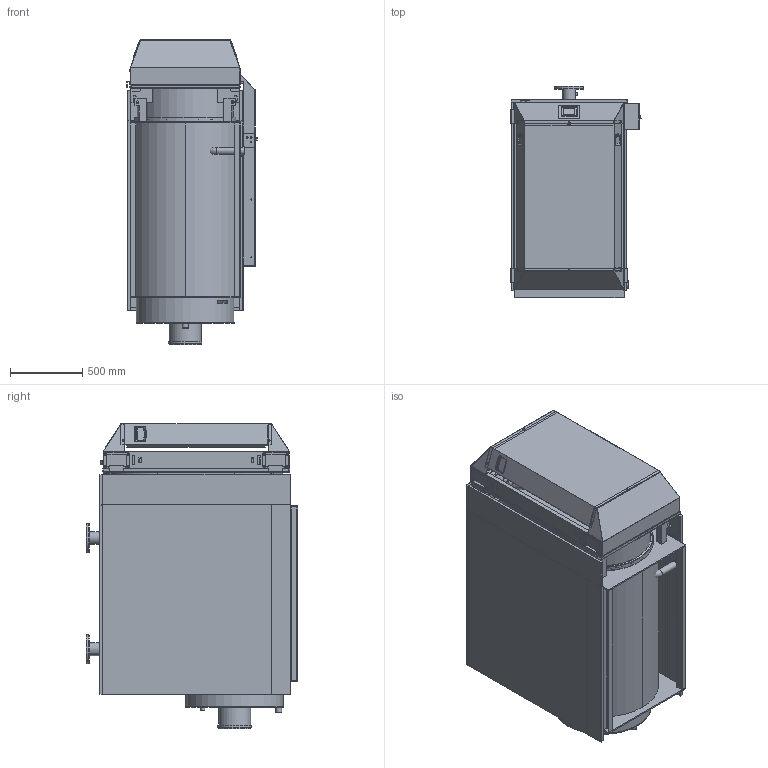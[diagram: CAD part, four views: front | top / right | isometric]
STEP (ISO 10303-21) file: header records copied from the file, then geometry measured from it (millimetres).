
FILE_DESCRIPTION (( 'STEP AP203' ), '1' );
FILE_NAME ('GT3 200.STEP', '2019-03-11T13:42:45', ( '' ), ( '' ), 'SwSTEP 2.0', 'SolidWorks 2019', '' );
FILE_SCHEMA (( 'CONFIG_CONTROL_DESIGN' ));
Products named in the file (1): GT3 200
Bounding box: 900.78 x 1463.5 x 2113.2 mm (x, y, z)
Surface area: 29509795.5 mm2 (no closed solid volume)
Topology: 0 solids, 236 shells, 1005 faces, 5292 edges, 4411 vertices
Faces by surface type: plane 532, cylinder 301, torus 88, sphere 44, bspline 32, cone 8
Full cylindrical faces by diameter (mm): 3.3 x4, 3.5 x4, 5 x5, 6 x1, 8 x12, 8.9 x2, 9 x2, 12 x1, 14 x7, 16 x2, 16.1 x1, 18 x9, 18.8 x2, 20 x1, 26.4 x2, 27 x1, 30 x3, 30.4 x1, 39.5 x1, 48 x2, 48.1 x2, 48.2 x2, 48.3 x2, 55 x3, 57 x1, 60 x4, 60.3 x1, 80.9 x2, 88.9 x2, 90 x2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
Entity records: 54102 total; most frequent: CARTESIAN_POINT 13835, DIRECTION 8174, ORIENTED_EDGE 6125, EDGE_CURVE 5095, VERTEX_POINT 4372, LINE 3216, VECTOR 3216, AXIS2_PLACEMENT_3D 2479
